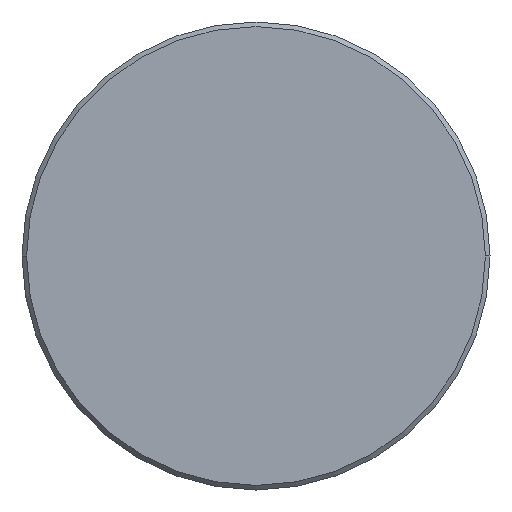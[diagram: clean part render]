
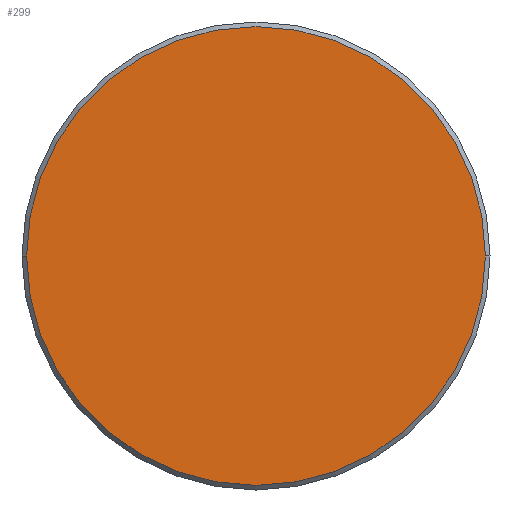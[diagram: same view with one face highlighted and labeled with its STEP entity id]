
A CAD part, left-side view. The second image highlights one B-rep face of the part: STEP entity #299.
In plain terms, the highlighted planar face has unit normal (-1, 0, 0).
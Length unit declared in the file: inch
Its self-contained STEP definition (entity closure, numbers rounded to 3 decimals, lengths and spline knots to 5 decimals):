
#41 = EDGE_CURVE ( 'NONE', #306, #181, #66, .T. ) ;
#50 = DIRECTION ( 'NONE',  ( -1., 0., 0. ) ) ;
#63 = EDGE_CURVE ( 'NONE', #181, #306, #135, .T. ) ;
#66 = CIRCLE ( 'NONE', #294, 0.19912 ) ;
#74 = FACE_OUTER_BOUND ( 'NONE', #292, .T. ) ;
#78 = AXIS2_PLACEMENT_3D ( 'NONE', #282, #231, #174 ) ;
#98 = CARTESIAN_POINT ( 'NONE',  ( 0., 0., 0. ) ) ;
#100 = DIRECTION ( 'NONE',  ( -1., 0., 0. ) ) ;
#135 = CIRCLE ( 'NONE', #78, 0.19912 ) ;
#156 = CARTESIAN_POINT ( 'NONE',  ( 0., 0.19912, 0. ) ) ;
#174 = DIRECTION ( 'NONE',  ( 0., -1., 0. ) ) ;
#181 = VERTEX_POINT ( 'NONE', #203 ) ;
#202 = ORIENTED_EDGE ( 'NONE', *, *, #41, .T. ) ;
#203 = CARTESIAN_POINT ( 'NONE',  ( 0., -0.19912, 0. ) ) ;
#231 = DIRECTION ( 'NONE',  ( -1., 0., 0. ) ) ;
#243 = PLANE ( 'NONE',  #377 ) ;
#244 = CARTESIAN_POINT ( 'NONE',  ( 0., 0., 0. ) ) ;
#266 = DIRECTION ( 'NONE',  ( 0., -1., 0. ) ) ;
#282 = CARTESIAN_POINT ( 'NONE',  ( 0., 0., 0. ) ) ;
#292 = EDGE_LOOP ( 'NONE', ( #202, #304 ) ) ;
#294 = AXIS2_PLACEMENT_3D ( 'NONE', #98, #100, #365 ) ;
#299 = ADVANCED_FACE ( 'NONE', ( #74 ), #243, .T. ) ;
#304 = ORIENTED_EDGE ( 'NONE', *, *, #63, .T. ) ;
#306 = VERTEX_POINT ( 'NONE', #156 ) ;
#365 = DIRECTION ( 'NONE',  ( 0., -1., 0. ) ) ;
#377 = AXIS2_PLACEMENT_3D ( 'NONE', #244, #50, #266 ) ;
